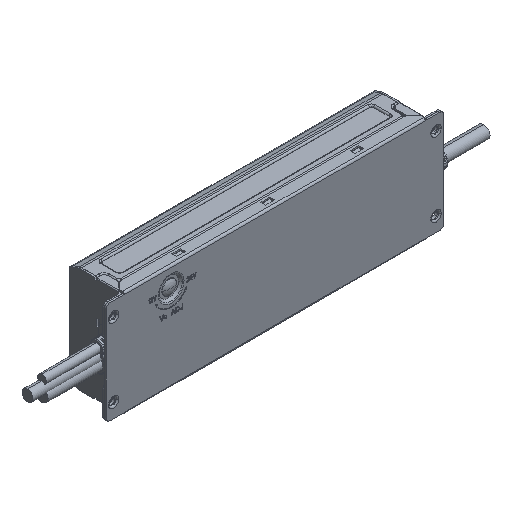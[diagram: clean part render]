
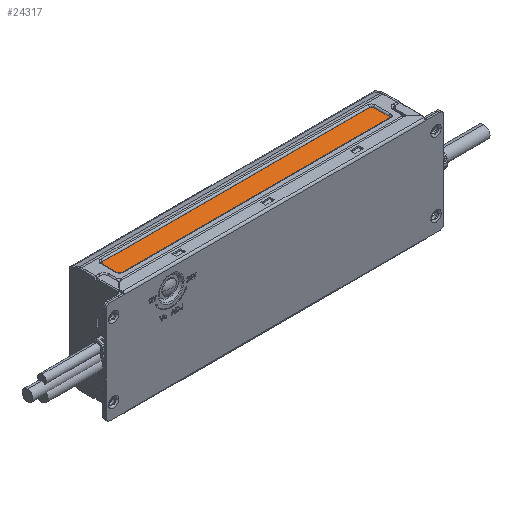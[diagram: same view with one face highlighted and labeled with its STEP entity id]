
A CAD part, isometric view. The second image highlights one B-rep face of the part: STEP entity #24317.
In plain terms, the highlighted planar face has unit normal (0, 0, 1) as drawn and (0, 1, 0) by its records, which use the part's own axes.
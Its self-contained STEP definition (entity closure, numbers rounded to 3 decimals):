
#15453=DIRECTION('',(0.,0.,-1.));
#15454=VECTOR('',#15453,11.3);
#15455=CARTESIAN_POINT('',(201.805,74.698,25.8));
#15456=LINE('',#15455,#15454);
#15471=DIRECTION('',(1.,0.,0.));
#15472=VECTOR('',#15471,195.);
#15473=CARTESIAN_POINT('',(5.305,74.698,27.3));
#15474=LINE('',#15473,#15472);
#15489=DIRECTION('',(0.,0.,1.));
#15490=VECTOR('',#15489,11.3);
#15491=CARTESIAN_POINT('',(3.805,74.698,14.5));
#15492=LINE('',#15491,#15490);
#15507=DIRECTION('',(-1.,0.,0.));
#15508=VECTOR('',#15507,195.);
#15509=CARTESIAN_POINT('',(200.305,74.698,13.));
#15510=LINE('',#15509,#15508);
#15511=CARTESIAN_POINT('',(200.305,74.698,14.5));
#15512=DIRECTION('',(0.,-1.,0.));
#15513=DIRECTION('',(0.,0.,-1.));
#15514=AXIS2_PLACEMENT_3D('',#15511,#15512,#15513);
#15516=CARTESIAN_POINT('',(200.305,74.698,25.8));
#15517=DIRECTION('',(0.,-1.,0.));
#15518=DIRECTION('',(1.,0.,0.));
#15519=AXIS2_PLACEMENT_3D('',#15516,#15517,#15518);
#15521=CARTESIAN_POINT('',(5.305,74.698,25.8));
#15522=DIRECTION('',(0.,-1.,0.));
#15523=DIRECTION('',(0.,0.,1.));
#15524=AXIS2_PLACEMENT_3D('',#15521,#15522,#15523);
#15526=CARTESIAN_POINT('',(5.305,74.698,14.5));
#15527=DIRECTION('',(0.,-1.,0.));
#15528=DIRECTION('',(-1.,0.,0.));
#15529=AXIS2_PLACEMENT_3D('',#15526,#15527,#15528);
#19791=CARTESIAN_POINT('',(201.805,74.698,14.5));
#19792=VERTEX_POINT('',#19791);
#19793=CARTESIAN_POINT('',(200.305,74.698,13.));
#19794=VERTEX_POINT('',#19793);
#19795=CARTESIAN_POINT('',(201.805,74.698,25.8));
#19796=VERTEX_POINT('',#19795);
#19797=CARTESIAN_POINT('',(200.305,74.698,27.3));
#19798=VERTEX_POINT('',#19797);
#19799=CARTESIAN_POINT('',(5.305,74.698,27.3));
#19800=VERTEX_POINT('',#19799);
#19801=CARTESIAN_POINT('',(3.805,74.698,25.8));
#19802=VERTEX_POINT('',#19801);
#19803=CARTESIAN_POINT('',(3.805,74.698,14.5));
#19804=VERTEX_POINT('',#19803);
#19805=CARTESIAN_POINT('',(5.305,74.698,13.));
#19806=VERTEX_POINT('',#19805);
#24302=CARTESIAN_POINT('',(0.,74.698,0.));
#24303=DIRECTION('',(0.,1.,0.));
#24304=DIRECTION('',(-1.,0.,0.));
#24305=AXIS2_PLACEMENT_3D('',#24302,#24303,#24304);
#24306=PLANE('',#24305);
#24307=ORIENTED_EDGE('',*,*,#24142,.T.);
#24308=ORIENTED_EDGE('',*,*,#24164,.F.);
#24309=ORIENTED_EDGE('',*,*,#24185,.T.);
#24310=ORIENTED_EDGE('',*,*,#24206,.F.);
#24311=ORIENTED_EDGE('',*,*,#24227,.T.);
#24312=ORIENTED_EDGE('',*,*,#24248,.F.);
#24313=ORIENTED_EDGE('',*,*,#24269,.T.);
#24314=ORIENTED_EDGE('',*,*,#24289,.F.);
#24315=EDGE_LOOP('',(#24307,#24308,#24309,#24310,#24311,#24312,#24313,#24314));
#24316=FACE_OUTER_BOUND('',#24315,.F.);
#15515=CIRCLE('',#15514,1.5);
#15520=CIRCLE('',#15519,1.5);
#15525=CIRCLE('',#15524,1.5);
#15530=CIRCLE('',#15529,1.5);
#24142=EDGE_CURVE('',#19794,#19792,#15515,.T.);
#24164=EDGE_CURVE('',#19796,#19792,#15456,.T.);
#24185=EDGE_CURVE('',#19796,#19798,#15520,.T.);
#24206=EDGE_CURVE('',#19800,#19798,#15474,.T.);
#24227=EDGE_CURVE('',#19800,#19802,#15525,.T.);
#24248=EDGE_CURVE('',#19804,#19802,#15492,.T.);
#24269=EDGE_CURVE('',#19804,#19806,#15530,.T.);
#24289=EDGE_CURVE('',#19794,#19806,#15510,.T.);
#24317=ADVANCED_FACE('',(#24316),#24306,.T.);
